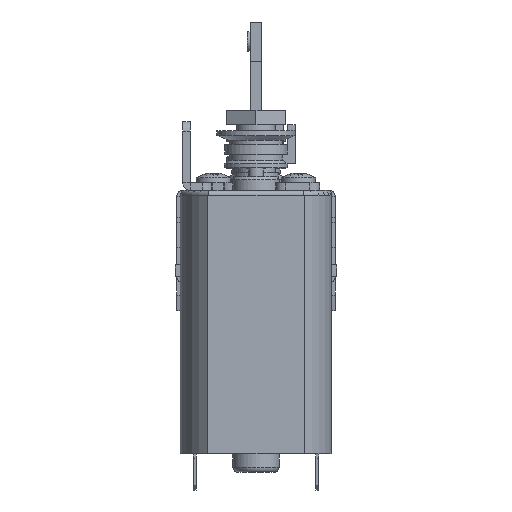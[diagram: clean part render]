
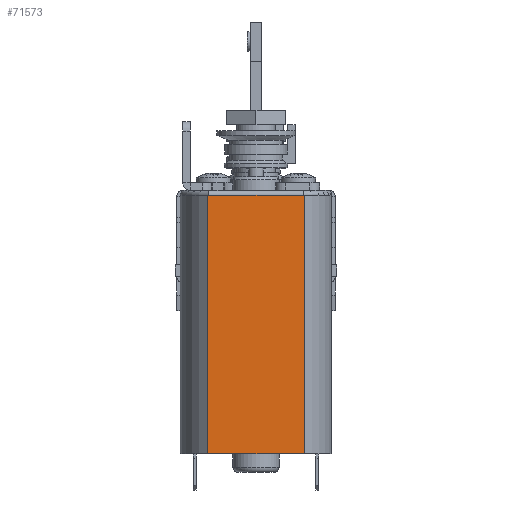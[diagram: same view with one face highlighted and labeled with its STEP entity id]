
A CAD part, left-side view. The second image highlights one B-rep face of the part: STEP entity #71573.
In plain terms, the highlighted planar face has unit normal (-1, 0, 0).
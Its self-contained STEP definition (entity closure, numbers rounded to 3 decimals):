
#58556 = CYLINDRICAL_SURFACE('',#58557,0.5);
#58557 = AXIS2_PLACEMENT_3D('',#58558,#58559,#58560);
#58558 = CARTESIAN_POINT('',(-80.,-4.905,-8.7));
#58559 = DIRECTION('',(0.,1.,0.));
#58560 = DIRECTION('',(0.,0.,1.));
#63803 = VERTEX_POINT('',#63804);
#63804 = CARTESIAN_POINT('',(-80.5,4.905,-8.7));
#63885 = CYLINDRICAL_SURFACE('',#63886,7.75);
#63886 = AXIS2_PLACEMENT_3D('',#63887,#63888,#63889);
#63887 = CARTESIAN_POINT('',(-74.5,0.,-8.2));
#63888 = DIRECTION('',(0.,0.,1.));
#63889 = DIRECTION('',(0.,-1.,0.));
#67517 = VERTEX_POINT('',#67518);
#67518 = CARTESIAN_POINT('',(-80.5,-4.905,-8.7));
#67599 = CYLINDRICAL_SURFACE('',#67600,7.75);
#67600 = AXIS2_PLACEMENT_3D('',#67601,#67602,#67603);
#67601 = CARTESIAN_POINT('',(-74.5,0.,-8.2));
#67602 = DIRECTION('',(0.,0.,1.));
#67603 = DIRECTION('',(0.,-1.,0.));
#67672 = EDGE_CURVE('',#67517,#63803,#67673,.T.);
#67673 = SURFACE_CURVE('',#67674,(#67678,#67685),.PCURVE_S1.);
#67674 = LINE('',#67675,#67676);
#67675 = CARTESIAN_POINT('',(-80.5,-4.905,-8.7));
#67676 = VECTOR('',#67677,1.);
#67677 = DIRECTION('',(0.,1.,0.));
#67678 = PCURVE('',#58556,#67679);
#67679 = DEFINITIONAL_REPRESENTATION('',(#67680),#67684);
#67680 = LINE('',#67681,#67682);
#67681 = CARTESIAN_POINT('',(-1.571,0.));
#67682 = VECTOR('',#67683,1.);
#67683 = DIRECTION('',(-0.,1.));
#67684 = ( GEOMETRIC_REPRESENTATION_CONTEXT(2) 
PARAMETRIC_REPRESENTATION_CONTEXT() REPRESENTATION_CONTEXT('2D SPACE',''
  ) );
#67685 = PCURVE('',#67686,#67691);
#67686 = PLANE('',#67687);
#67687 = AXIS2_PLACEMENT_3D('',#67688,#67689,#67690);
#67688 = CARTESIAN_POINT('',(-80.5,12.,-41.2));
#67689 = DIRECTION('',(1.,0.,0.));
#67690 = DIRECTION('',(0.,0.,1.));
#67691 = DEFINITIONAL_REPRESENTATION('',(#67692),#67696);
#67692 = LINE('',#67693,#67694);
#67693 = CARTESIAN_POINT('',(32.5,16.905));
#67694 = VECTOR('',#67695,1.);
#67695 = DIRECTION('',(0.,-1.));
#67696 = ( GEOMETRIC_REPRESENTATION_CONTEXT(2) 
PARAMETRIC_REPRESENTATION_CONTEXT() REPRESENTATION_CONTEXT('2D SPACE',''
  ) );
#70326 = EDGE_CURVE('',#70327,#63803,#70329,.T.);
#70327 = VERTEX_POINT('',#70328);
#70328 = CARTESIAN_POINT('',(-80.5,4.905,-35.1));
#70329 = SURFACE_CURVE('',#70330,(#70334,#70340),.PCURVE_S1.);
#70330 = LINE('',#70331,#70332);
#70331 = CARTESIAN_POINT('',(-80.5,4.905,-8.2));
#70332 = VECTOR('',#70333,1.);
#70333 = DIRECTION('',(0.,0.,1.));
#70334 = PCURVE('',#63885,#70335);
#70335 = DEFINITIONAL_REPRESENTATION('',(#70336),#70339);
#70336 = B_SPLINE_CURVE_WITH_KNOTS('',1,(#70337,#70338),.UNSPECIFIED.,
  .F.,.F.,(2,2),(-26.9,0.),.PIECEWISE_BEZIER_KNOTS.);
#70337 = CARTESIAN_POINT('',(4.027,-26.9));
#70338 = CARTESIAN_POINT('',(4.027,0.));
#70339 = ( GEOMETRIC_REPRESENTATION_CONTEXT(2) 
PARAMETRIC_REPRESENTATION_CONTEXT() REPRESENTATION_CONTEXT('2D SPACE',''
  ) );
#70340 = PCURVE('',#67686,#70341);
#70341 = DEFINITIONAL_REPRESENTATION('',(#70342),#70345);
#70342 = B_SPLINE_CURVE_WITH_KNOTS('',1,(#70343,#70344),.UNSPECIFIED.,
  .F.,.F.,(2,2),(-26.9,0.),.PIECEWISE_BEZIER_KNOTS.);
#70343 = CARTESIAN_POINT('',(6.1,7.095));
#70344 = CARTESIAN_POINT('',(33.,7.095));
#70345 = ( GEOMETRIC_REPRESENTATION_CONTEXT(2) 
PARAMETRIC_REPRESENTATION_CONTEXT() REPRESENTATION_CONTEXT('2D SPACE',''
  ) );
#70384 = PLANE('',#70385);
#70385 = AXIS2_PLACEMENT_3D('',#70386,#70387,#70388);
#70386 = CARTESIAN_POINT('',(-74.5,0.,-35.1));
#70387 = DIRECTION('',(0.,0.,1.));
#70388 = DIRECTION('',(0.,-1.,0.));
#71531 = EDGE_CURVE('',#71532,#67517,#71534,.T.);
#71532 = VERTEX_POINT('',#71533);
#71533 = CARTESIAN_POINT('',(-80.5,-4.905,-35.1));
#71534 = SURFACE_CURVE('',#71535,(#71539,#71545),.PCURVE_S1.);
#71535 = LINE('',#71536,#71537);
#71536 = CARTESIAN_POINT('',(-80.5,-4.905,-8.2));
#71537 = VECTOR('',#71538,1.);
#71538 = DIRECTION('',(0.,0.,1.));
#71539 = PCURVE('',#67599,#71540);
#71540 = DEFINITIONAL_REPRESENTATION('',(#71541),#71544);
#71541 = B_SPLINE_CURVE_WITH_KNOTS('',1,(#71542,#71543),.UNSPECIFIED.,
  .F.,.F.,(2,2),(-26.9,0.),.PIECEWISE_BEZIER_KNOTS.);
#71542 = CARTESIAN_POINT('',(5.398,-26.9));
#71543 = CARTESIAN_POINT('',(5.398,0.));
#71544 = ( GEOMETRIC_REPRESENTATION_CONTEXT(2) 
PARAMETRIC_REPRESENTATION_CONTEXT() REPRESENTATION_CONTEXT('2D SPACE',''
  ) );
#71545 = PCURVE('',#67686,#71546);
#71546 = DEFINITIONAL_REPRESENTATION('',(#71547),#71550);
#71547 = B_SPLINE_CURVE_WITH_KNOTS('',1,(#71548,#71549),.UNSPECIFIED.,
  .F.,.F.,(2,2),(-26.9,0.),.PIECEWISE_BEZIER_KNOTS.);
#71548 = CARTESIAN_POINT('',(6.1,16.905));
#71549 = CARTESIAN_POINT('',(33.,16.905));
#71550 = ( GEOMETRIC_REPRESENTATION_CONTEXT(2) 
PARAMETRIC_REPRESENTATION_CONTEXT() REPRESENTATION_CONTEXT('2D SPACE',''
  ) );
#71573 = ADVANCED_FACE('',(#71574),#67686,.F.);
#71574 = FACE_BOUND('',#71575,.F.);
#71575 = EDGE_LOOP('',(#71576,#71577,#71578,#71579));
#71576 = ORIENTED_EDGE('',*,*,#70326,.T.);
#71577 = ORIENTED_EDGE('',*,*,#67672,.F.);
#71578 = ORIENTED_EDGE('',*,*,#71531,.F.);
#71579 = ORIENTED_EDGE('',*,*,#71580,.T.);
#71580 = EDGE_CURVE('',#71532,#70327,#71581,.T.);
#71581 = SURFACE_CURVE('',#71582,(#71586,#71592),.PCURVE_S1.);
#71582 = LINE('',#71583,#71584);
#71583 = CARTESIAN_POINT('',(-80.5,6.,-35.1));
#71584 = VECTOR('',#71585,1.);
#71585 = DIRECTION('',(0.,1.,0.));
#71586 = PCURVE('',#67686,#71587);
#71587 = DEFINITIONAL_REPRESENTATION('',(#71588),#71591);
#71588 = B_SPLINE_CURVE_WITH_KNOTS('',1,(#71589,#71590),.UNSPECIFIED.,
  .F.,.F.,(2,2),(-13.75,1.75),.PIECEWISE_BEZIER_KNOTS.);
#71589 = CARTESIAN_POINT('',(6.1,19.75));
#71590 = CARTESIAN_POINT('',(6.1,4.25));
#71591 = ( GEOMETRIC_REPRESENTATION_CONTEXT(2) 
PARAMETRIC_REPRESENTATION_CONTEXT() REPRESENTATION_CONTEXT('2D SPACE',''
  ) );
#71592 = PCURVE('',#70384,#71593);
#71593 = DEFINITIONAL_REPRESENTATION('',(#71594),#71597);
#71594 = B_SPLINE_CURVE_WITH_KNOTS('',1,(#71595,#71596),.UNSPECIFIED.,
  .F.,.F.,(2,2),(-13.75,1.75),.PIECEWISE_BEZIER_KNOTS.);
#71595 = CARTESIAN_POINT('',(7.75,-6.));
#71596 = CARTESIAN_POINT('',(-7.75,-6.));
#71597 = ( GEOMETRIC_REPRESENTATION_CONTEXT(2) 
PARAMETRIC_REPRESENTATION_CONTEXT() REPRESENTATION_CONTEXT('2D SPACE',''
  ) );
